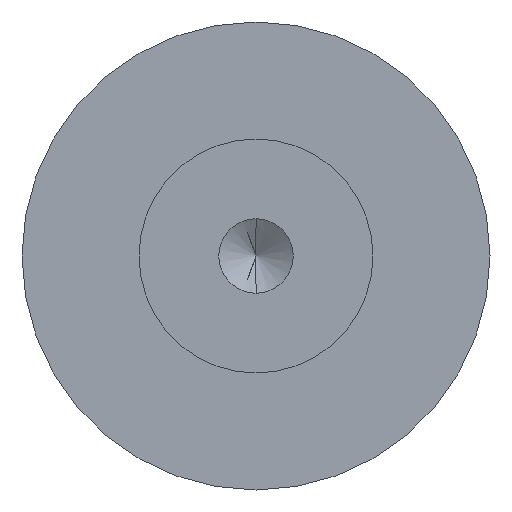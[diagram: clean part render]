
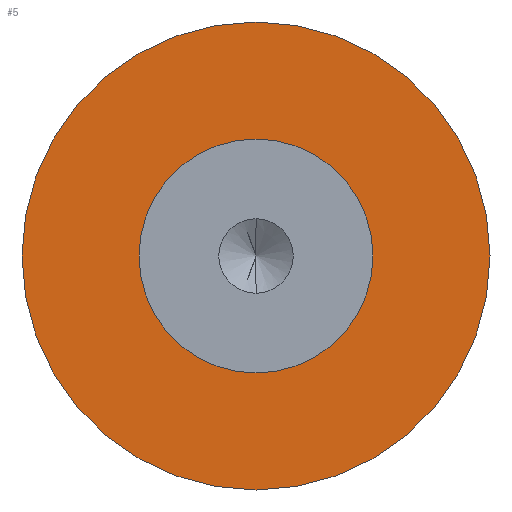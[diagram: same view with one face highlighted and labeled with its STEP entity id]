
A CAD part, front view. The second image highlights one B-rep face of the part: STEP entity #5.
In plain terms, the highlighted planar face has unit normal (0, -1, 0).
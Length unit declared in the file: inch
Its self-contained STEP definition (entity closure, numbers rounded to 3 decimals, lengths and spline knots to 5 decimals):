
#5 = ADVANCED_FACE ( 'NONE', ( #395, #413 ), #249, .F. ) ;
#14 = EDGE_CURVE ( 'NONE', #260, #265, #452, .T. ) ;
#22 = EDGE_CURVE ( 'NONE', #250, #264, #443, .T. ) ;
#26 = EDGE_CURVE ( 'NONE', #264, #250, #469, .T. ) ;
#30 = AXIS2_PLACEMENT_3D ( 'NONE', #252, #279, #284 ) ;
#39 = AXIS2_PLACEMENT_3D ( 'NONE', #308, #309, #310 ) ;
#47 = AXIS2_PLACEMENT_3D ( 'NONE', #98, #119, #120 ) ;
#54 = AXIS2_PLACEMENT_3D ( 'NONE', #105, #109, #110 ) ;
#56 = AXIS2_PLACEMENT_3D ( 'NONE', #129, #136, #121 ) ;
#64 = EDGE_CURVE ( 'NONE', #265, #260, #476, .T. ) ;
#98 = CARTESIAN_POINT ( 'NONE',  ( 0., -0.12, 0. ) ) ;
#105 = CARTESIAN_POINT ( 'NONE',  ( 0., -0.12, 0. ) ) ;
#109 = DIRECTION ( 'NONE',  ( 0., 1., 0. ) ) ;
#110 = DIRECTION ( 'NONE',  ( 0., 0., 1. ) ) ;
#119 = DIRECTION ( 'NONE',  ( 0., 1., 0. ) ) ;
#120 = DIRECTION ( 'NONE',  ( 0., 0., 1. ) ) ;
#121 = DIRECTION ( 'NONE',  ( 0., 0., 1. ) ) ;
#129 = CARTESIAN_POINT ( 'NONE',  ( 0., -0.12, 0. ) ) ;
#136 = DIRECTION ( 'NONE',  ( 0., -1., 0. ) ) ;
#167 = CARTESIAN_POINT ( 'NONE',  ( 0., -0.12, 0.5 ) ) ;
#187 = CARTESIAN_POINT ( 'NONE',  ( 0., -0.12, -0.5 ) ) ;
#193 = CARTESIAN_POINT ( 'NONE',  ( 0., -0.12, 0.25 ) ) ;
#198 = CARTESIAN_POINT ( 'NONE',  ( 0., -0.12, -0.25 ) ) ;
#249 = PLANE ( 'NONE',  #30 ) ;
#250 = VERTEX_POINT ( 'NONE', #187 ) ;
#252 = CARTESIAN_POINT ( 'NONE',  ( -1.10557, -0.12, 0. ) ) ;
#260 = VERTEX_POINT ( 'NONE', #193 ) ;
#264 = VERTEX_POINT ( 'NONE', #167 ) ;
#265 = VERTEX_POINT ( 'NONE', #198 ) ;
#279 = DIRECTION ( 'NONE',  ( 0., 1., 0. ) ) ;
#284 = DIRECTION ( 'NONE',  ( 0., 0., 1. ) ) ;
#308 = CARTESIAN_POINT ( 'NONE',  ( 0., -0.12, 0. ) ) ;
#309 = DIRECTION ( 'NONE',  ( 0., -1., 0. ) ) ;
#310 = DIRECTION ( 'NONE',  ( 0., 0., 1. ) ) ;
#354 = ORIENTED_EDGE ( 'NONE', *, *, #14, .F. ) ;
#369 = ORIENTED_EDGE ( 'NONE', *, *, #26, .F. ) ;
#374 = ORIENTED_EDGE ( 'NONE', *, *, #64, .F. ) ;
#383 = ORIENTED_EDGE ( 'NONE', *, *, #22, .F. ) ;
#395 = FACE_OUTER_BOUND ( 'NONE', #422, .T. ) ;
#413 = FACE_BOUND ( 'NONE', #419, .T. ) ;
#419 = EDGE_LOOP ( 'NONE', ( #374, #354 ) ) ;
#422 = EDGE_LOOP ( 'NONE', ( #383, #369 ) ) ;
#443 = CIRCLE ( 'NONE', #47, 0.5 ) ;
#452 = CIRCLE ( 'NONE', #39, 0.25 ) ;
#469 = CIRCLE ( 'NONE', #54, 0.5 ) ;
#476 = CIRCLE ( 'NONE', #56, 0.25 ) ;
